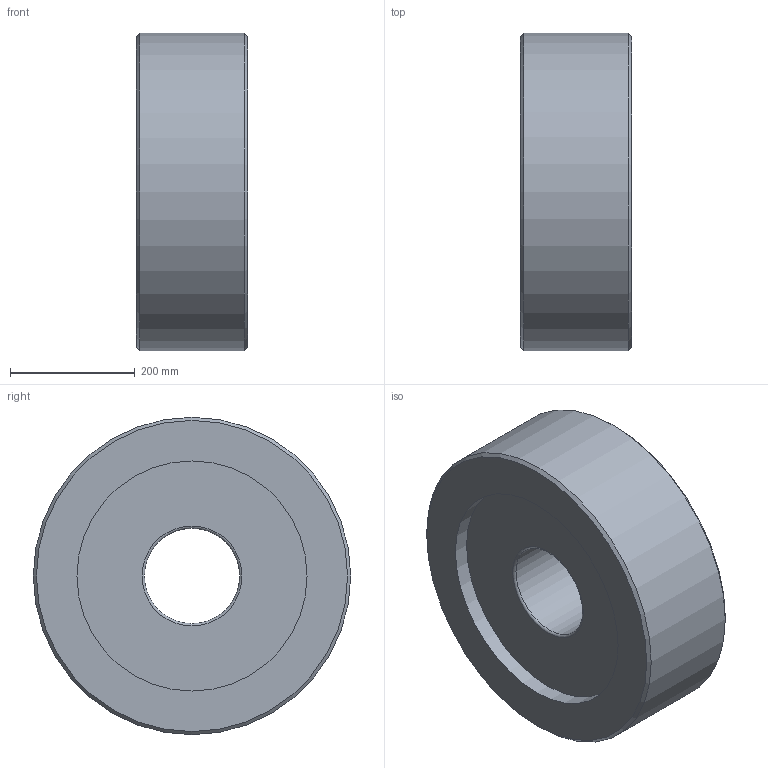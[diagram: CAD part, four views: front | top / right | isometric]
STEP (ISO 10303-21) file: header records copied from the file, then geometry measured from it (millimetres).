
FILE_DESCRIPTION((''),'1');
FILE_NAME('H:/図庫/国内ﾕﾆｯﾄ/ｶﾀﾛｸﾞ/樹脂巻き/ホームページ用ＣＡＤ図面/update用/3D/', '2017-07-13T04:50:24',(''), (''), 'KCM Version 1.1.1442.0', 'Kubotek KeyCreator', '');
FILE_SCHEMA(('AUTOMOTIVE_DESIGN'));
Length unit declared in the file: inch
Bounding box: 177.8 x 508 x 508 mm (x, y, z)
Surface area: 761103.8 mm2 (no closed solid volume)
Topology: 0 solids, 12 shells, 12 faces, 40 edges, 32 vertices
Faces by surface type: plane 4, cylinder 4, torus 2, cone 2
Full cylindrical faces by diameter (mm): 152.4 x1, 368.3 x2, 508 x1
Entity records: 476 total; most frequent: DIRECTION 92, CARTESIAN_POINT 81, ORIENTED_EDGE 48, AXIS2_PLACEMENT_3D 43, EDGE_CURVE 40, VERTEX_POINT 32, CIRCLE 30, EDGE_LOOP 16
